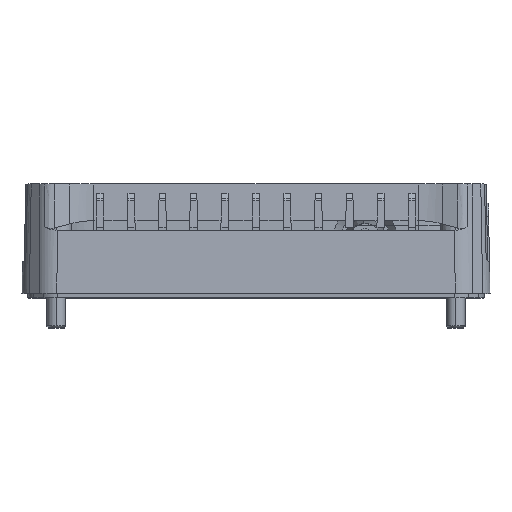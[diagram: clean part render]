
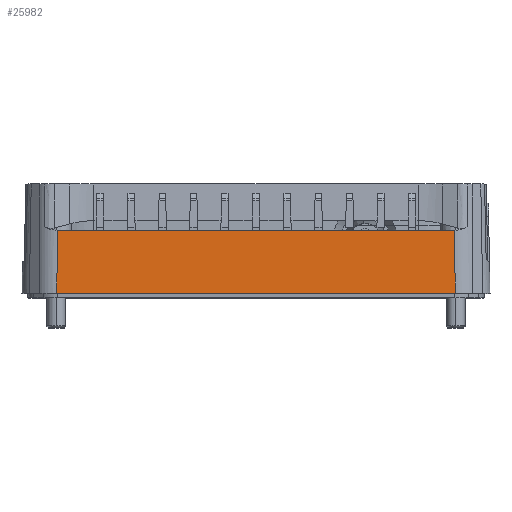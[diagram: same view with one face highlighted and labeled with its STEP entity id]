
A CAD part, top view. The second image highlights one B-rep face of the part: STEP entity #25982.
In plain terms, the highlighted planar face has unit normal (0, 0.018, 1).
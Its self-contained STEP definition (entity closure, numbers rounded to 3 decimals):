
#346 = DIRECTION ( 'NONE',  ( -0.007, -1., 0.017 ) ) ;
#1755 = CARTESIAN_POINT ( 'NONE',  ( 67.142, 0., 55. ) ) ;
#1908 = FACE_OUTER_BOUND ( 'NONE', #11543, .T. ) ;
#2194 = PLANE ( 'NONE',  #52120 ) ;
#3749 = EDGE_CURVE ( 'NONE', #6566, #42938, #45456, .T. ) ;
#6566 = VERTEX_POINT ( 'NONE', #16098 ) ;
#9322 = LINE ( 'NONE', #31854, #30127 ) ;
#11543 = EDGE_LOOP ( 'NONE', ( #63273, #13988, #12340, #40219 ) ) ;
#12340 = ORIENTED_EDGE ( 'NONE', *, *, #3749, .F. ) ;
#13304 = CARTESIAN_POINT ( 'NONE',  ( -67.07, 20.178, 54.648 ) ) ;
#13988 = ORIENTED_EDGE ( 'NONE', *, *, #37781, .T. ) ;
#16098 = CARTESIAN_POINT ( 'NONE',  ( -63.683, 20.178, 54.648 ) ) ;
#21312 = LINE ( 'NONE', #52417, #22086 ) ;
#22086 = VECTOR ( 'NONE', #52191, 1000. ) ;
#22340 = DIRECTION ( 'NONE',  ( 0., -1., 0.017 ) ) ;
#23589 = DIRECTION ( 'NONE',  ( 1., 0., 0. ) ) ;
#24115 = CARTESIAN_POINT ( 'NONE',  ( -63.829, 0., 55. ) ) ;
#24447 = VECTOR ( 'NONE', #54657, 1000. ) ;
#25062 = EDGE_CURVE ( 'NONE', #52348, #38563, #55082, .T. ) ;
#25982 = ADVANCED_FACE ( 'NONE', ( #1908 ), #2194, .T. ) ;
#30127 = VECTOR ( 'NONE', #346, 1000. ) ;
#31854 = CARTESIAN_POINT ( 'NONE',  ( -63.822, 0.947, 54.983 ) ) ;
#34699 = EDGE_CURVE ( 'NONE', #6566, #52348, #9322, .T. ) ;
#37781 = EDGE_CURVE ( 'NONE', #38563, #42938, #21312, .T. ) ;
#38032 = DIRECTION ( 'NONE',  ( 0., 0.017, 1. ) ) ;
#38563 = VERTEX_POINT ( 'NONE', #53888 ) ;
#40219 = ORIENTED_EDGE ( 'NONE', *, *, #34699, .T. ) ;
#42938 = VERTEX_POINT ( 'NONE', #58017 ) ;
#44270 = CARTESIAN_POINT ( 'NONE',  ( 67.142, 0., 55. ) ) ;
#45456 = LINE ( 'NONE', #13304, #55957 ) ;
#52120 = AXIS2_PLACEMENT_3D ( 'NONE', #1755, #38032, #22340 ) ;
#52191 = DIRECTION ( 'NONE',  ( -0.007, 1., -0.017 ) ) ;
#52348 = VERTEX_POINT ( 'NONE', #24115 ) ;
#52417 = CARTESIAN_POINT ( 'NONE',  ( 63.829, -0.024, 55. ) ) ;
#53888 = CARTESIAN_POINT ( 'NONE',  ( 63.829, 0., 55. ) ) ;
#54657 = DIRECTION ( 'NONE',  ( 1., 0., 0. ) ) ;
#55082 = LINE ( 'NONE', #44270, #24447 ) ;
#55957 = VECTOR ( 'NONE', #23589, 1000. ) ;
#58017 = CARTESIAN_POINT ( 'NONE',  ( 63.683, 20.178, 54.648 ) ) ;
#63273 = ORIENTED_EDGE ( 'NONE', *, *, #25062, .T. ) ;
